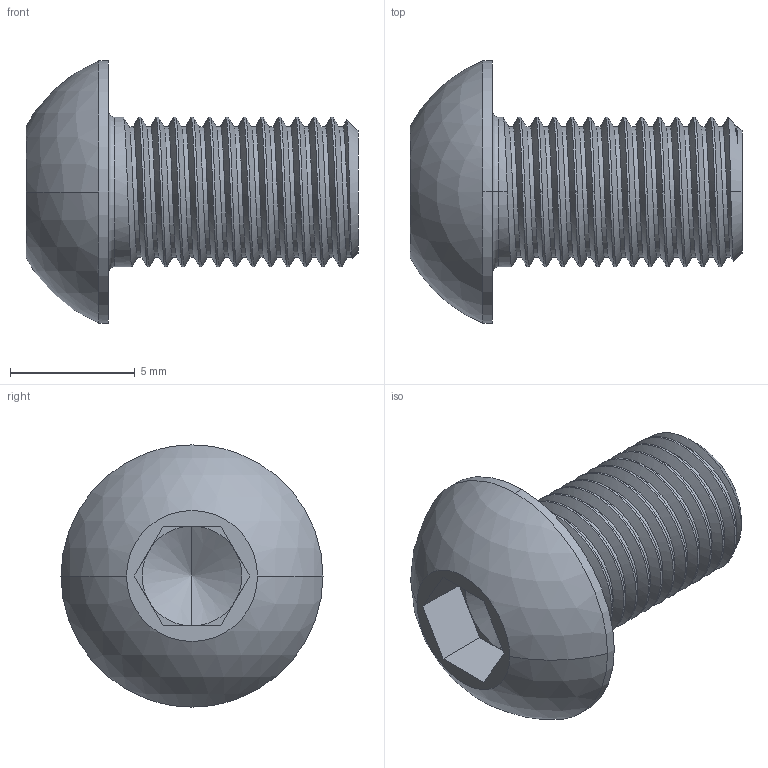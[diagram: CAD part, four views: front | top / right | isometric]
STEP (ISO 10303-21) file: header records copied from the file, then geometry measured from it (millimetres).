
FILE_DESCRIPTION (( 'STEP AP203' ), '1' );
FILE_NAME ('M6x10_ISO7380.STEP', '2025-11-17T11:59:09', ( '' ), ( '' ), 'SwSTEP 2.0', 'SolidWorks 2022', '' );
FILE_SCHEMA (( 'CONFIG_CONTROL_DESIGN' ));
Length unit declared in the file: millimetre
Products named in the file (1): M6x10_ISO7380
Bounding box: 13.3 x 10.5 x 10.5 mm (x, y, z)
Volume: 415.9 mm3; surface area: 521.7 mm2
Topology: 1 solids, 1 shells, 56 faces, 146 edges, 92 vertices
Faces by surface type: cylinder 29, plane 16, cone 4, bspline 3, torus 2, sphere 2
Entity records: 7505 total; most frequent: CARTESIAN_POINT 6212, ORIENTED_EDGE 288, DIRECTION 213, EDGE_CURVE 144, VERTEX_POINT 92, AXIS2_PLACEMENT_3D 78, EDGE_LOOP 58, VECTOR 57
